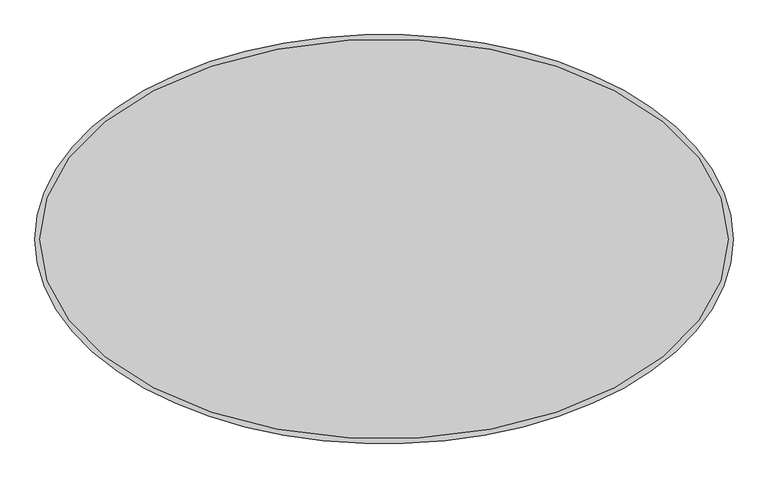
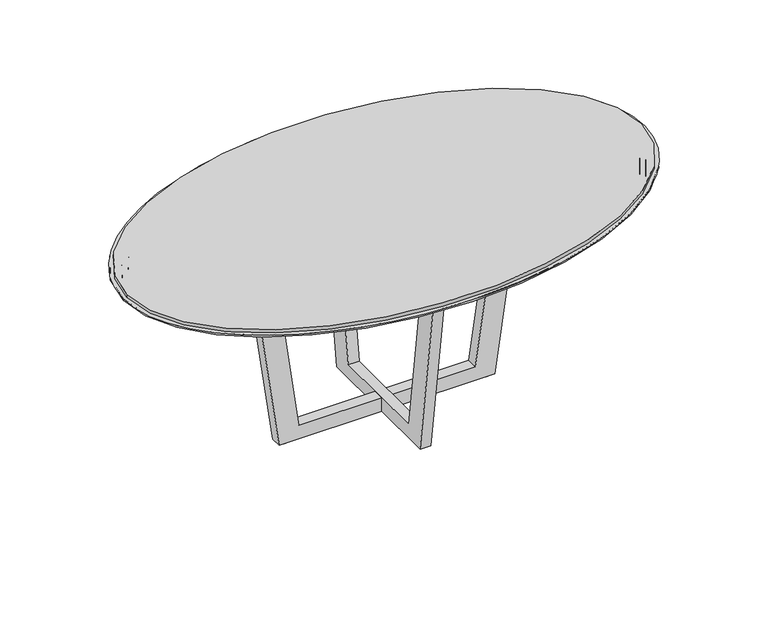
"""IFC4 building model written with IfcOpenShell, lengths in millimetres: furniture geometry, Knoll_Datesweiser_Tables_Meeting_Highline_Elliptical : 42W Caesartone Open."""

from ifc_helpers import new_model, si_unit, point, frame, origin, place, context, project, spatial, polyline, circle_curve, ellipse_curve, trimmed, outline, extrude, source, transform, mapped, element, save
from ifc_brep_helpers import plane_surface, cylinder_surface, extruded_surface, advanced_brep


def furniture_63e50bf2(model_context):
    return source(origin(), model_context, "Body", "SolidModel", [
        advanced_brep(
        [(908.05, 0.0, 742.95), (-908.05, 0.0, 742.95), (908.05, 0.0, 730.2499758), (-908.05, 0.0, 730.2499758)],
        [
            (0, 1, ellipse_curve(frame((0.0, 0.0, 742.95), z_axis=(0.0, 0.0, 1.0), x_axis=(-1.0, 0.0, 0.0)), 908.05, 527.05)),
            (1, 0, ellipse_curve(frame((0.0, 0.0, 742.95), z_axis=(0.0, 0.0, 1.0), x_axis=(-1.0, 0.0, 0.0)), 908.05, 527.05)),
            (2, 3, ellipse_curve(frame((0.0, 0.0, 730.2499758), z_axis=(0.0, 0.0, -1.0), x_axis=(-1.0, 0.0, 0.0)), 908.05, 527.05)),
            (3, 2, ellipse_curve(frame((0.0, 0.0, 730.2499758), z_axis=(0.0, 0.0, -1.0), x_axis=(-1.0, 0.0, 0.0)), 908.05, 527.05)),
            (0, 2),
            (3, 1),
        ],
        [
            plane_surface(frame((-908.05, 0.0, 742.95), z_axis=(0.0, 0.0, 1.0), x_axis=(0.0, -1.0, 0.0))),
            plane_surface(frame((-908.05, 0.0, 730.2499758), z_axis=(0.0, 0.0, -1.0), x_axis=(0.0, 1.0, 0.0))),
            extruded_surface(trimmed(ellipse_curve(frame((0.0, 0.0, 717.5499516), z_axis=(0.0, 0.0, 1.0), x_axis=(-1.0, 0.0, 0.0)), 908.05, 527.05), [point((908.05, 0.0, 717.5499516))], [point((-908.05, 0.0, 717.5499516))], True, "CARTESIAN"), (0.0, 0.0, 12.70002420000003), 12.70002420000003),
            extruded_surface(trimmed(ellipse_curve(frame((0.0, 0.0, 717.5499516), z_axis=(0.0, 0.0, 1.0), x_axis=(-1.0, 0.0, 0.0)), 908.05, 527.05), [point((-908.05, 0.0, 717.5499516))], [point((908.05, 0.0, 717.5499516))], True, "CARTESIAN"), (0.0, 0.0, 12.70002420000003), 12.70002420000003),
        ],
        [
            (0, [[1, 2]]),
            (1, [[3, 4]]),
            (2, [[-1, 5, -4, 6]]),
            (3, [[-2, -6, -3, -5]]),
        ],
    ),
        advanced_brep(
        [(908.05, 0.0, 742.95), (-908.05, 0.0, 742.95), (908.05, 0.0, 730.2499758), (-908.05, 0.0, 730.2499758)],
        [
            (0, 1, ellipse_curve(frame((0.0, 0.0, 742.95), z_axis=(0.0, 0.0, 1.0), x_axis=(-1.0, 0.0, 0.0)), 908.05, 527.05)),
            (1, 0, ellipse_curve(frame((0.0, 0.0, 742.95), z_axis=(0.0, 0.0, 1.0), x_axis=(-1.0, 0.0, 0.0)), 908.05, 527.05)),
            (2, 3, ellipse_curve(frame((0.0, 0.0, 730.2499758), z_axis=(0.0, 0.0, -1.0), x_axis=(-1.0, 0.0, 0.0)), 908.05, 527.05)),
            (3, 2, ellipse_curve(frame((0.0, 0.0, 730.2499758), z_axis=(0.0, 0.0, -1.0), x_axis=(-1.0, 0.0, 0.0)), 908.05, 527.05)),
            (0, 2),
            (3, 1),
        ],
        [
            plane_surface(frame((-908.05, 0.0, 742.95), z_axis=(0.0, 0.0, 1.0), x_axis=(0.0, -1.0, 0.0))),
            plane_surface(frame((-908.05, 0.0, 730.2499758), z_axis=(0.0, 0.0, -1.0), x_axis=(0.0, 1.0, 0.0))),
            extruded_surface(trimmed(ellipse_curve(frame((0.0, 0.0, 717.5499516), z_axis=(0.0, 0.0, 1.0), x_axis=(-1.0, 0.0, 0.0)), 908.05, 527.05), [point((908.05, 0.0, 717.5499516))], [point((-908.05, 0.0, 717.5499516))], True, "CARTESIAN"), (0.0, 0.0, 12.70002420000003), 12.70002420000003),
            extruded_surface(trimmed(ellipse_curve(frame((0.0, 0.0, 717.5499516), z_axis=(0.0, 0.0, 1.0), x_axis=(-1.0, 0.0, 0.0)), 908.05, 527.05), [point((-908.05, 0.0, 717.5499516))], [point((908.05, 0.0, 717.5499516))], True, "CARTESIAN"), (0.0, 0.0, 12.70002420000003), 12.70002420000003),
        ],
        [
            (0, [[1, 2]]),
            (1, [[3, 4]]),
            (2, [[-1, 5, -4, 6]]),
            (3, [[-2, -6, -3, -5]]),
        ],
    ),
        advanced_brep(
        [(885.6773346, 0.0, 725.1700242), (-885.6773346, 0.0, 725.1700242), (866.4463863, 0.0, 725.1700242), (-866.4463863, 0.0, 725.1700242), (885.6773346, 0.0, 698.5000242), (-885.6773346, 0.0, 698.5000242), (866.4463863, 0.0, 698.5000242), (-866.4463863, 0.0, 698.5000242)],
        [
            (0, 1, ellipse_curve(frame((0.0, 0.0, 725.1700242), z_axis=(0.0, 0.0, 1.0), x_axis=(-1.0, 0.0, 0.0)), 885.6773346, 491.49)),
            (1, 0, ellipse_curve(frame((0.0, 0.0, 725.1700242), z_axis=(0.0, 0.0, 1.0), x_axis=(-1.0, 0.0, 0.0)), 885.6773346, 491.49)),
            (2, 3, ellipse_curve(frame((0.0, 0.0, 725.1700242), z_axis=(0.0, 0.0, -1.0), x_axis=(-1.0, 0.0, 0.0)), 866.4463863, 461.4576762)),
            (3, 2, ellipse_curve(frame((0.0, 0.0, 725.1700242), z_axis=(0.0, 0.0, -1.0), x_axis=(-1.0, 0.0, 0.0)), 866.4463863, 461.4576762)),
            (4, 5, ellipse_curve(frame((0.0, 0.0, 698.5000242), z_axis=(0.0, 0.0, -1.0), x_axis=(-1.0, 0.0, 0.0)), 885.6773346, 491.49)),
            (5, 4, ellipse_curve(frame((0.0, 0.0, 698.5000242), z_axis=(0.0, 0.0, -1.0), x_axis=(-1.0, 0.0, 0.0)), 885.6773346, 491.49)),
            (6, 7, ellipse_curve(frame((0.0, 0.0, 698.5000242), z_axis=(0.0, 0.0, 1.0), x_axis=(-1.0, 0.0, 0.0)), 866.4463863, 461.4576762)),
            (7, 6, ellipse_curve(frame((0.0, 0.0, 698.5000242), z_axis=(0.0, 0.0, 1.0), x_axis=(-1.0, 0.0, 0.0)), 866.4463863, 461.4576762)),
            (0, 4),
            (5, 1),
            (2, 6),
            (7, 3),
        ],
        [
            plane_surface(frame((-885.6773346, 0.0, 725.1700242), z_axis=(0.0, 0.0, 1.0), x_axis=(0.0, -1.0, 0.0))),
            plane_surface(frame((-885.6773346, 0.0, 698.5000242), z_axis=(0.0, 0.0, -1.0), x_axis=(0.0, 1.0, 0.0))),
            extruded_surface(trimmed(ellipse_curve(frame((0.0, 0.0, 671.8300242), z_axis=(0.0, 0.0, 1.0), x_axis=(-1.0, 0.0, 0.0)), 885.6773346, 491.49), [point((885.6773346, 0.0, 671.8300242))], [point((-885.6773346, 0.0, 671.8300242))], True, "CARTESIAN"), (0.0, 0.0, 26.66999999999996), 26.66999999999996),
            extruded_surface(trimmed(ellipse_curve(frame((0.0, 0.0, 671.8300242), z_axis=(0.0, 0.0, 1.0), x_axis=(-1.0, 0.0, 0.0)), 885.6773346, 491.49), [point((-885.6773346, 0.0, 671.8300242))], [point((885.6773346, 0.0, 671.8300242))], True, "CARTESIAN"), (0.0, 0.0, 26.66999999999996), 26.66999999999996),
            extruded_surface(trimmed(ellipse_curve(frame((0.0, 0.0, 671.8300242), z_axis=(0.0, 0.0, -1.0), x_axis=(-1.0, 0.0, 0.0)), 866.4463863, 461.4576762), [point((866.4463863, 0.0, 671.8300242))], [point((-866.4463863, 0.0, 671.8300242))], True, "CARTESIAN"), (0.0, 0.0, 26.66999999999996), 26.66999999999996),
            extruded_surface(trimmed(ellipse_curve(frame((0.0, 0.0, 671.8300242), z_axis=(0.0, 0.0, -1.0), x_axis=(-1.0, 0.0, 0.0)), 866.4463863, 461.4576762), [point((-866.4463863, 0.0, 671.8300242))], [point((866.4463863, 0.0, 671.8300242))], True, "CARTESIAN"), (0.0, 0.0, 26.66999999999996), 26.66999999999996),
        ],
        [
            (0, [[1, 2], [3, 4]]),
            (1, [[5, 6], [7, 8]]),
            (2, [[-1, 9, -6, 10]]),
            (3, [[-2, -10, -5, -9]]),
            (4, [[-3, 11, -8, 12]]),
            (5, [[-4, -12, -7, -11]]),
        ],
    ),
        advanced_brep(
        [(920.75, 0.0, 723.9), (-920.75, 0.0, 723.9), (920.75, 0.0, 730.2499758), (-920.75, 0.0, 730.2499758)],
        [
            (0, 1, ellipse_curve(frame((0.0, 0.0, 723.9), z_axis=(0.0, 0.0, -1.0), x_axis=(-1.0, 0.0, 0.0)), 920.75, 539.75)),
            (1, 0, ellipse_curve(frame((0.0, 0.0, 723.9), z_axis=(0.0, 0.0, -1.0), x_axis=(-1.0, 0.0, 0.0)), 920.75, 539.75)),
            (2, 3, ellipse_curve(frame((0.0, 0.0, 730.2499758), z_axis=(0.0, 0.0, 1.0), x_axis=(-1.0, 0.0, 0.0)), 920.75, 539.75)),
            (3, 2, ellipse_curve(frame((0.0, 0.0, 730.2499758), z_axis=(0.0, 0.0, 1.0), x_axis=(-1.0, 0.0, 0.0)), 920.75, 539.75)),
            (0, 2),
            (3, 1),
        ],
        [
            plane_surface(frame((-920.75, 0.0, 723.9), z_axis=(0.0, 0.0, -1.0), x_axis=(0.0, 1.0, 0.0))),
            plane_surface(frame((-920.75, 0.0, 730.2499758), z_axis=(0.0, 0.0, 1.0), x_axis=(0.0, -1.0, 0.0))),
            extruded_surface(trimmed(ellipse_curve(frame((0.0, 0.0, 736.5999516), z_axis=(0.0, 0.0, -1.0), x_axis=(-1.0, 0.0, 0.0)), 920.75, 539.75), [point((920.75, 0.0, 736.5999516))], [point((-920.75, 0.0, 736.5999516))], True, "CARTESIAN"), (0.0, 0.0, -6.349975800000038), 6.349975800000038),
            extruded_surface(trimmed(ellipse_curve(frame((0.0, 0.0, 736.5999516), z_axis=(0.0, 0.0, -1.0), x_axis=(-1.0, 0.0, 0.0)), 920.75, 539.75), [point((-920.75, 0.0, 736.5999516))], [point((920.75, 0.0, 736.5999516))], True, "CARTESIAN"), (0.0, 0.0, -6.349975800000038), 6.349975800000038),
        ],
        [
            (0, [[1, 2]]),
            (1, [[3, 4]]),
            (2, [[-1, 5, -4, 6]]),
            (3, [[-2, -6, -3, -5]]),
        ],
    ),
        advanced_brep(
        [(0.0, 228.6, 0.0), (0.0, 241.0460063, 0.0), (0.0, 216.1539937, 0.0), (0.0, 241.0460063, 5.9867797), (0.0, 216.1539937, 5.9867797), (0.0, 228.6, 5.9867797)],
        [
            (0, 1),
            (1, 2, circle_curve(frame((0.0, 228.6, 0.0), z_axis=(0.0, 0.0, -1.0), x_axis=(0.0, 1.0, 0.0)), 12.4460063)),
            (2, 0),
            (2, 1, circle_curve(frame((0.0, 228.6, 0.0), z_axis=(0.0, 0.0, -1.0), x_axis=(0.0, 1.0, 0.0)), 12.4460063)),
            (1, 3),
            (3, 4, circle_curve(frame((0.0, 228.6, 5.9867797), z_axis=(0.0, 0.0, -1.0), x_axis=(0.0, 1.0, 0.0)), 12.4460063)),
            (4, 2),
            (4, 3, circle_curve(frame((0.0, 228.6, 5.9867797), z_axis=(0.0, 0.0, -1.0), x_axis=(0.0, 1.0, 0.0)), 12.4460063)),
            (3, 5),
            (5, 4),
        ],
        [
            plane_surface(frame((0.0, 228.6, 0.0), z_axis=(0.0, 0.0, -1.0), x_axis=(0.0, 1.0, 0.0))),
            cylinder_surface(frame((0.0, 228.6, 0.0), z_axis=(0.0, 0.0, -1.0), x_axis=(0.0, 1.0, 0.0)), 12.4460063),
            plane_surface(frame((0.0, 228.6, 5.9867797), z_axis=(0.0, 0.0, 1.0), x_axis=(0.0, 1.0, 0.0))),
        ],
        [
            (0, [[1, 2, 3]]),
            (0, [[-3, 4, -1]]),
            (1, [[-2, 5, 6, 7]]),
            (1, [[-4, -7, 8, -5]]),
            (2, [[-6, 9, 10]]),
            (2, [[-8, -10, -9]]),
        ],
    ),
        advanced_brep(
        [(0.0, -216.1539937, 0.0), (0.0, -241.0460063, 0.0), (0.0, -228.6, 0.0), (0.0, -216.1539937, 5.9867797), (0.0, -241.0460063, 5.9867797), (0.0, -228.6, 5.9867797)],
        [
            (0, 1, circle_curve(frame((0.0, -228.6, 0.0), z_axis=(0.0, 0.0, -1.0), x_axis=(0.0, -1.0, 0.0)), 12.4460063)),
            (1, 2),
            (2, 0),
            (1, 0, circle_curve(frame((0.0, -228.6, 0.0), z_axis=(0.0, 0.0, -1.0), x_axis=(0.0, -1.0, 0.0)), 12.4460063)),
            (3, 4, circle_curve(frame((0.0, -228.6, 5.9867797), z_axis=(0.0, 0.0, -1.0), x_axis=(0.0, -1.0, 0.0)), 12.4460063)),
            (4, 1),
            (0, 3),
            (4, 3, circle_curve(frame((0.0, -228.6, 5.9867797), z_axis=(0.0, 0.0, -1.0), x_axis=(0.0, -1.0, 0.0)), 12.4460063)),
            (5, 4),
            (3, 5),
        ],
        [
            plane_surface(frame((0.0, -228.6, 0.0), z_axis=(0.0, 0.0, -1.0), x_axis=(0.0, -1.0, 0.0))),
            cylinder_surface(frame((0.0, -228.6, 0.0), z_axis=(0.0, 0.0, 1.0), x_axis=(0.0, -1.0, 0.0)), 12.4460063),
            plane_surface(frame((0.0, -228.6, 5.9867797), z_axis=(0.0, 0.0, 1.0), x_axis=(0.0, -1.0, 0.0))),
        ],
        [
            (0, [[1, 2, 3]]),
            (0, [[4, -3, -2]]),
            (1, [[5, 6, -1, 7]]),
            (1, [[8, -7, -4, -6]]),
            (2, [[9, -5, 10]]),
            (2, [[-10, -8, -9]]),
        ],
    ),
        advanced_brep(
        [(-355.5999879, 0.0, 0.0), (-368.051941, 0.0, 0.0), (-343.1480348, 0.0, 0.0), (-368.051941, 0.0, 5.9867797), (-343.1480348, 0.0, 5.9867797), (-355.5999879, 0.0, 5.9867797)],
        [
            (0, 1),
            (1, 2, circle_curve(frame((-355.5999879, 0.0, 0.0), z_axis=(0.0, 0.0, -1.0), x_axis=(-1.0, 0.0, 0.0)), 12.4519531)),
            (2, 0),
            (2, 1, circle_curve(frame((-355.5999879, 0.0, 0.0), z_axis=(0.0, 0.0, -1.0), x_axis=(-1.0, 0.0, 0.0)), 12.4519531)),
            (1, 3),
            (3, 4, circle_curve(frame((-355.5999879, 0.0, 5.9867797), z_axis=(0.0, 0.0, -1.0), x_axis=(-1.0, 0.0, 0.0)), 12.4519531)),
            (4, 2),
            (4, 3, circle_curve(frame((-355.5999879, 0.0, 5.9867797), z_axis=(0.0, 0.0, -1.0), x_axis=(-1.0, 0.0, 0.0)), 12.4519531)),
            (3, 5),
            (5, 4),
        ],
        [
            plane_surface(frame((-355.5999879, 0.0, 0.0), z_axis=(0.0, 0.0, -1.0), x_axis=(-1.0, 0.0, 0.0))),
            cylinder_surface(frame((-355.5999879, 0.0, 5.9867797), z_axis=(0.0, 0.0, -1.0), x_axis=(-1.0, 0.0, 0.0)), 12.4519531),
            plane_surface(frame((-355.5999879, 0.0, 5.9867797), z_axis=(0.0, 0.0, 1.0), x_axis=(-1.0, 0.0, 0.0))),
        ],
        [
            (0, [[1, 2, 3]]),
            (0, [[-3, 4, -1]]),
            (1, [[-2, 5, 6, 7]]),
            (1, [[-4, -7, 8, -5]]),
            (2, [[-6, 9, 10]]),
            (2, [[-8, -10, -9]]),
        ],
    ),
        advanced_brep(
        [(343.1480348, 0.0, 0.0), (368.051941, 0.0, 0.0), (355.5999879, 0.0, 0.0), (343.1480348, 0.0, 5.9867797), (368.051941, 0.0, 5.9867797), (355.5999879, 0.0, 5.9867797)],
        [
            (0, 1, circle_curve(frame((355.5999879, 0.0, 0.0), z_axis=(0.0, 0.0, -1.0), x_axis=(1.0, 0.0, 0.0)), 12.4519531)),
            (1, 2),
            (2, 0),
            (1, 0, circle_curve(frame((355.5999879, 0.0, 0.0), z_axis=(0.0, 0.0, -1.0), x_axis=(1.0, 0.0, 0.0)), 12.4519531)),
            (3, 4, circle_curve(frame((355.5999879, 0.0, 5.9867797), z_axis=(0.0, 0.0, -1.0), x_axis=(1.0, 0.0, 0.0)), 12.4519531)),
            (4, 1),
            (0, 3),
            (4, 3, circle_curve(frame((355.5999879, 0.0, 5.9867797), z_axis=(0.0, 0.0, -1.0), x_axis=(1.0, 0.0, 0.0)), 12.4519531)),
            (5, 4),
            (3, 5),
        ],
        [
            plane_surface(frame((355.5999879, 0.0, 0.0), z_axis=(0.0, 0.0, -1.0), x_axis=(1.0, 0.0, 0.0))),
            cylinder_surface(frame((355.5999879, 0.0, 5.9867797), z_axis=(0.0, 0.0, 1.0), x_axis=(1.0, 0.0, 0.0)), 12.4519531),
            plane_surface(frame((355.5999879, 0.0, 5.9867797), z_axis=(0.0, 0.0, 1.0), x_axis=(1.0, 0.0, 0.0))),
        ],
        [
            (0, [[1, 2, 3]]),
            (0, [[4, -3, -2]]),
            (1, [[5, 6, -1, 7]]),
            (1, [[8, -7, -4, -6]]),
            (2, [[9, -5, 10]]),
            (2, [[-10, -8, -9]]),
        ],
    ),
        extrude(outline(polyline([(-350.632804, 693.5648108), (-273.6839366, 693.5648108), (-184.1906083, 56.7867818), (184.1906083, 56.7867818), (273.6839366, 693.5648108), (350.6328036, 693.5648108), (253.9999996, 5.9867797), (-254.0, 5.9867797), (-350.632804, 693.5648108)])), frame((-19.05, 0.0, 0.0), z_axis=(1.0, 0.0, 0.0), x_axis=(0.0, 1.0, 0.0)), (0.0, 0.0, 1.0), 38.1),
        extrude(outline(polyline([(693.5648108, -477.6328044), (5.9867797, -381.0000004), (5.9867797, 381.0), (693.5648108, 477.632804), (693.5648108, 400.683937), (56.7867818, 311.1906087), (56.7867818, -311.1906087), (693.5648108, -400.683937), (693.5648108, -477.6328044)])), frame((0.0, -19.05, 0.0), z_axis=(0.0, 1.0, 0.0), x_axis=(0.0, 0.0, 1.0)), (0.0, 0.0, 1.0), 38.1),
    ])


if __name__ == "__main__":
    model = new_model("IFC4")
    model_context = context("Model", 3, world=origin())
    ifc_project = project(units=[si_unit("LENGTHUNIT", "METRE", prefix="MILLI")], contexts=[model_context])
    site = spatial("IfcSite", under=ifc_project)
    building = spatial("IfcBuilding", under=site)
    placement = place(None, origin())
    furniture_shape = furniture_63e50bf2(model_context)
    element("IfcFurniture", 1, ObjectType="Knoll_Datesweiser_Tables_Meeting_Highline_Elliptical : 42W Caesartone Open", at=placement, inside=building, context=model_context, shape_type="MappedRepresentation", body=[
        mapped(furniture_shape, transform((0.0, 0.0, 0.0), x_axis=(1.0, 0.0, 0.0), y_axis=(0.0, 1.0, 0.0), z_axis=(0.0, 0.0, 1.0))),
    ])
    save(model, "model.ifc")
